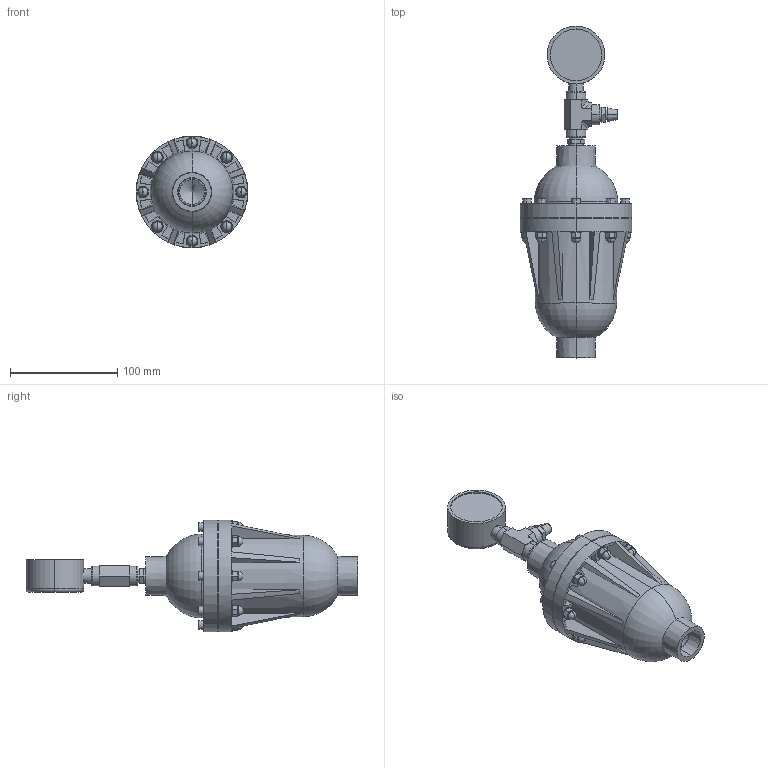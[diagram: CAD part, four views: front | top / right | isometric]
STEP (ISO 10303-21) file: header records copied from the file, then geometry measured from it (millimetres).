
FILE_DESCRIPTION (( 'STEP AP203' ), '1' );
FILE_NAME ('PD0022.STEP', '2016-01-07T10:50:20', ( '' ), ( '' ), 'SwSTEP 2.0', 'SolidWorks 2014', '' );
FILE_SCHEMA (( 'CONFIG_CONTROL_DESIGN' ));
Length unit declared in the file: inch
Products named in the file (2): PD0022
Bounding box: 104.14 x 309.37 x 104.14 mm (x, y, z)
Volume: 884834.5 mm3; surface area: 94611.6 mm2
Topology: 1 solids, 1 shells, 455 faces, 1091 edges, 703 vertices
Faces by surface type: plane 269, cylinder 92, cone 72, torus 22
Entity records: 13544 total; most frequent: CARTESIAN_POINT 2691, DIRECTION 2263, ORIENTED_EDGE 2178, EDGE_CURVE 1089, AXIS2_PLACEMENT_3D 837, VERTEX_POINT 703, LINE 589, VECTOR 589
